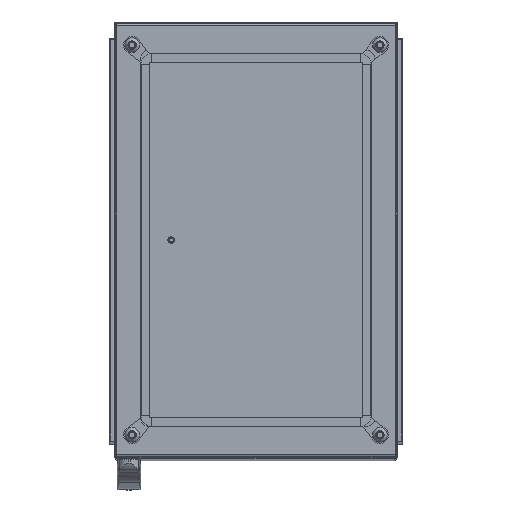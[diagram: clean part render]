
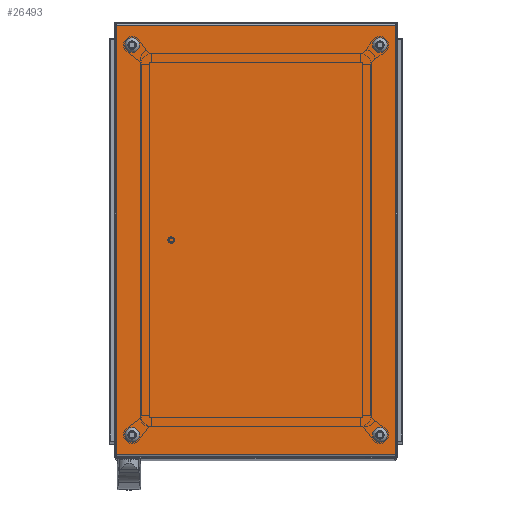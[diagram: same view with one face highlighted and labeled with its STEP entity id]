
A CAD part, top view. The second image highlights one B-rep face of the part: STEP entity #26493.
In plain terms, the highlighted planar face has unit normal (0, 0, 1).
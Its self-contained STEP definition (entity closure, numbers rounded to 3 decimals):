
#1321=CIRCLE('',#28470,6.);
#1322=CIRCLE('',#28471,6.);
#1323=CIRCLE('',#28472,6.);
#1324=CIRCLE('',#28473,6.);
#5045=ORIENTED_EDGE('',*,*,#11319,.F.);
#5046=ORIENTED_EDGE('',*,*,#11320,.F.);
#5047=ORIENTED_EDGE('',*,*,#11321,.F.);
#5048=ORIENTED_EDGE('',*,*,#11322,.F.);
#5049=ORIENTED_EDGE('',*,*,#11308,.T.);
#5050=ORIENTED_EDGE('',*,*,#11316,.T.);
#5051=ORIENTED_EDGE('',*,*,#11279,.F.);
#5052=ORIENTED_EDGE('',*,*,#11323,.F.);
#11279=EDGE_CURVE('',#14651,#14652,#17295,.T.);
#11308=EDGE_CURVE('',#14673,#14672,#17301,.T.);
#11316=EDGE_CURVE('',#14672,#14652,#17306,.T.);
#11319=EDGE_CURVE('',#14674,#14674,#1321,.T.);
#11320=EDGE_CURVE('',#14675,#14675,#1322,.T.);
#11321=EDGE_CURVE('',#14676,#14676,#1323,.T.);
#11322=EDGE_CURVE('',#14677,#14677,#1324,.T.);
#11323=EDGE_CURVE('',#14673,#14651,#17309,.T.);
#14651=VERTEX_POINT('',#41417);
#14652=VERTEX_POINT('',#41419);
#14672=VERTEX_POINT('',#41493);
#14673=VERTEX_POINT('',#41495);
#14674=VERTEX_POINT('',#41512);
#14675=VERTEX_POINT('',#41514);
#14676=VERTEX_POINT('',#41516);
#14677=VERTEX_POINT('',#41518);
#17295=LINE('',#41418,#19612);
#17301=LINE('',#41494,#19618);
#17306=LINE('',#41506,#19623);
#17309=LINE('',#41519,#19626);
#19612=VECTOR('',#33198,1000.);
#19618=VECTOR('',#33252,1000.);
#19623=VECTOR('',#33269,1000.);
#19626=VECTOR('',#33284,1000.);
#21627=EDGE_LOOP('',(#5045));
#21628=EDGE_LOOP('',(#5046));
#21629=EDGE_LOOP('',(#5047));
#21630=EDGE_LOOP('',(#5048));
#21631=EDGE_LOOP('',(#5049,#5050,#5051,#5052));
#23778=FACE_BOUND('',#21627,.T.);
#23779=FACE_BOUND('',#21628,.T.);
#23780=FACE_BOUND('',#21629,.T.);
#23781=FACE_BOUND('',#21630,.T.);
#23782=FACE_BOUND('',#21631,.T.);
#25586=PLANE('',#28469);
#26493=ADVANCED_FACE('',(#23778,#23779,#23780,#23781,#23782),#25586,.T.);
#28469=AXIS2_PLACEMENT_3D('',#41510,#33274,#33275);
#28470=AXIS2_PLACEMENT_3D('',#41511,#33276,#33277);
#28471=AXIS2_PLACEMENT_3D('',#41513,#33278,#33279);
#28472=AXIS2_PLACEMENT_3D('',#41515,#33280,#33281);
#28473=AXIS2_PLACEMENT_3D('',#41517,#33282,#33283);
#33198=DIRECTION('',(-1.,0.,0.));
#33252=DIRECTION('',(-1.,0.,0.));
#33269=DIRECTION('',(0.,-1.,0.));
#33274=DIRECTION('',(0.,0.,1.));
#33275=DIRECTION('',(1.,0.,0.));
#33276=DIRECTION('',(0.,0.,1.));
#33277=DIRECTION('',(1.,0.,0.));
#33278=DIRECTION('',(0.,0.,1.));
#33279=DIRECTION('',(1.,0.,0.));
#33280=DIRECTION('',(0.,0.,1.));
#33281=DIRECTION('',(1.,0.,0.));
#33282=DIRECTION('',(0.,0.,1.));
#33283=DIRECTION('',(1.,0.,0.));
#33284=DIRECTION('',(0.,-1.,0.));
#41417=CARTESIAN_POINT('',(196.5,-302.5,20.));
#41418=CARTESIAN_POINT('',(200.,-302.5,20.));
#41419=CARTESIAN_POINT('',(-196.5,-302.5,20.));
#41493=CARTESIAN_POINT('',(-196.5,302.5,20.));
#41494=CARTESIAN_POINT('',(200.,302.5,20.));
#41495=CARTESIAN_POINT('',(196.5,302.5,20.));
#41506=CARTESIAN_POINT('',(-196.5,305.5,20.));
#41510=CARTESIAN_POINT('',(-196.5,-302.5,20.));
#41511=CARTESIAN_POINT('',(174.5,-274.5,20.));
#41512=CARTESIAN_POINT('',(180.5,-274.5,20.));
#41513=CARTESIAN_POINT('',(-174.5,274.5,20.));
#41514=CARTESIAN_POINT('',(-168.5,274.5,20.));
#41515=CARTESIAN_POINT('',(174.5,274.5,20.));
#41516=CARTESIAN_POINT('',(180.5,274.5,20.));
#41517=CARTESIAN_POINT('',(-174.5,-274.5,20.));
#41518=CARTESIAN_POINT('',(-168.5,-274.5,20.));
#41519=CARTESIAN_POINT('',(196.5,305.5,20.));
